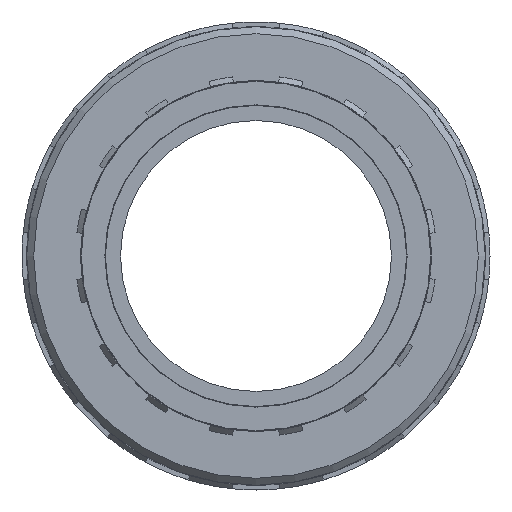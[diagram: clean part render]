
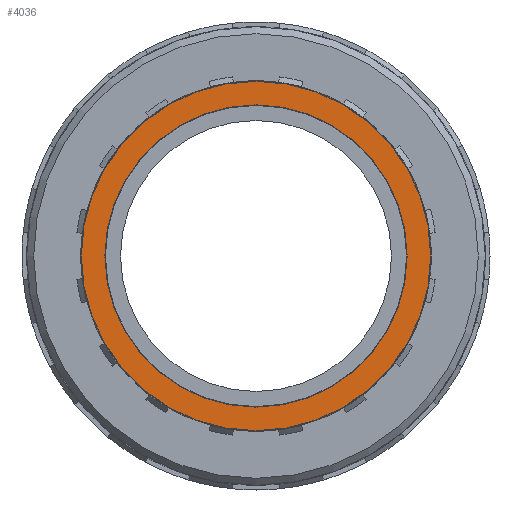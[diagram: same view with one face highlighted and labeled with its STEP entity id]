
A CAD part, left-side view. The second image highlights one B-rep face of the part: STEP entity #4036.
In plain terms, the highlighted planar face has unit normal (-1, 0, 0).
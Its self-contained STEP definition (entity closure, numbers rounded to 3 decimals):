
#29=FACE_BOUND('',#754,.T.);
#270=CIRCLE('',#4431,42.623);
#272=CIRCLE('',#4434,49.267);
#533=FACE_OUTER_BOUND('',#753,.T.);
#753=EDGE_LOOP('',(#3499));
#754=EDGE_LOOP('',(#3500));
#1934=VERTEX_POINT('',#6847);
#1936=VERTEX_POINT('',#6852);
#2508=EDGE_CURVE('',#1934,#1934,#270,.T.);
#2510=EDGE_CURVE('',#1936,#1936,#272,.T.);
#3499=ORIENTED_EDGE('',*,*,#2510,.F.);
#3500=ORIENTED_EDGE('',*,*,#2508,.F.);
#3831=PLANE('',#4433);
#4036=ADVANCED_FACE('',(#533,#29),#3831,.T.);
#4431=AXIS2_PLACEMENT_3D('',#6848,#5614,#5615);
#4433=AXIS2_PLACEMENT_3D('',#6851,#5618,#5619);
#4434=AXIS2_PLACEMENT_3D('',#6853,#5620,#5621);
#5614=DIRECTION('center_axis',(-1.,0.,0.));
#5615=DIRECTION('ref_axis',(0.,1.,0.));
#5618=DIRECTION('center_axis',(-1.,0.,0.));
#5619=DIRECTION('ref_axis',(0.,0.,1.));
#5620=DIRECTION('center_axis',(1.,0.,0.));
#5621=DIRECTION('ref_axis',(0.,1.,0.));
#6847=CARTESIAN_POINT('',(-62.5,-42.623,0.));
#6848=CARTESIAN_POINT('Origin',(-62.5,0.,0.));
#6851=CARTESIAN_POINT('Origin',(-62.5,-42.463,0.));
#6852=CARTESIAN_POINT('',(-62.5,-49.267,0.));
#6853=CARTESIAN_POINT('Origin',(-62.5,0.,0.));
